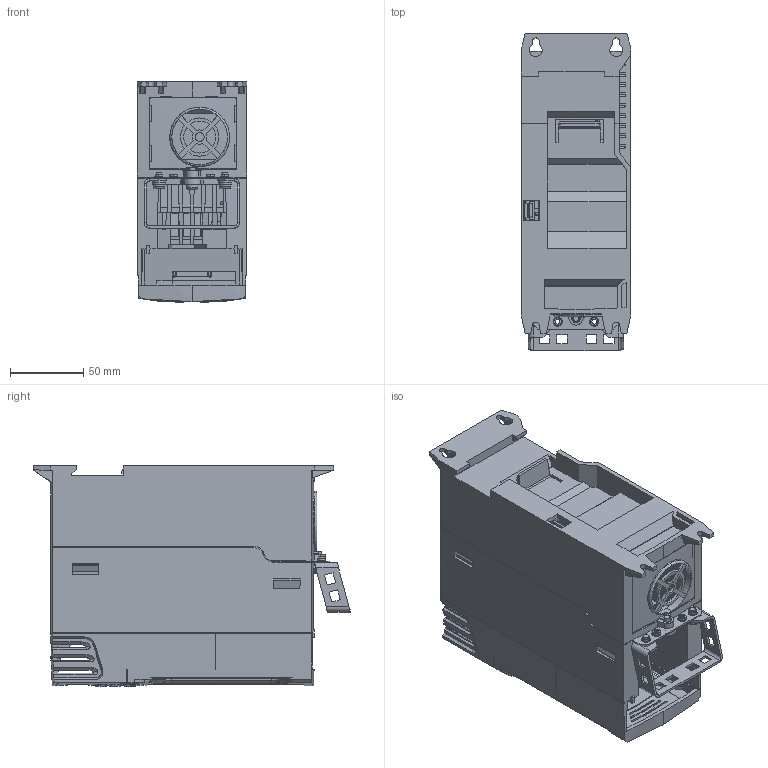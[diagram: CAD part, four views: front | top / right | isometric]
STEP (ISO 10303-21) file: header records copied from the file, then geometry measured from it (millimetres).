
FILE_DESCRIPTION (( 'STEP AP214' ), '1' );
FILE_NAME ('FDD302X_XXXXX.STEP', '2021-09-20T09:00:55', ( 'Windows-Benutzer' ), ( '' ), 'SwSTEP 2.0', 'SolidWorks 2020', '' );
FILE_SCHEMA (( 'AUTOMOTIVE_DESIGN' ));
Length unit declared in the file: millimetre
Products named in the file (1): FDD302X_XXXXX
Bounding box: 75 x 216.19 x 150.44 mm (x, y, z)
Volume: 373538.9 mm3; surface area: 276909 mm2
Topology: 2 solids, 2 shells, 2892 faces, 8041 edges, 5080 vertices
Faces by surface type: plane 1495, cylinder 720, bspline 432, cone 124, torus 67, sphere 54
Entity records: 131892 total; most frequent: CARTESIAN_POINT 48654, ORIENTED_EDGE 16066, DIRECTION 12243, EDGE_CURVE 8033, VERTEX_POINT 5080, VECTOR 4761, LINE 4761, AXIS2_PLACEMENT_3D 3741
